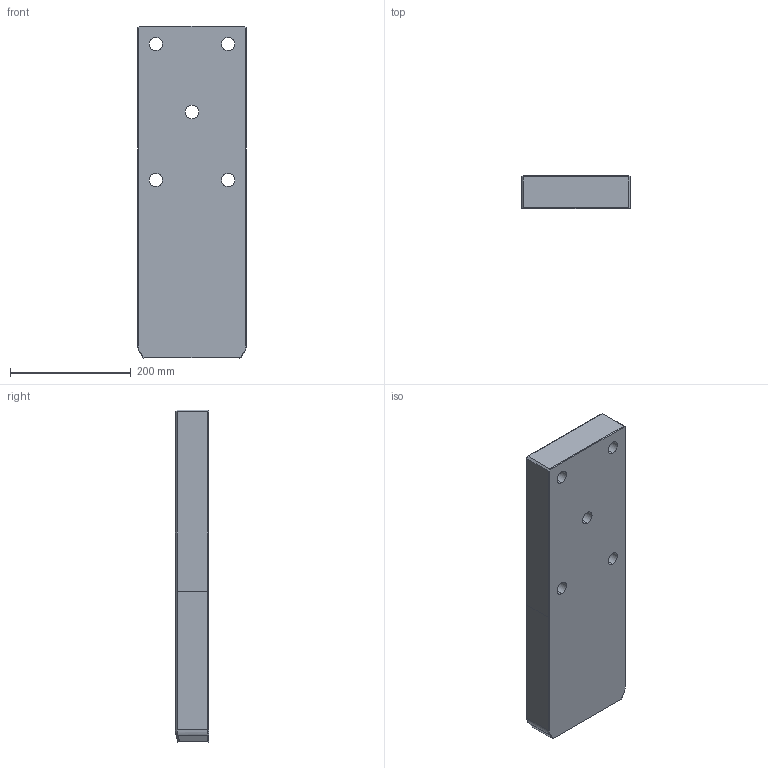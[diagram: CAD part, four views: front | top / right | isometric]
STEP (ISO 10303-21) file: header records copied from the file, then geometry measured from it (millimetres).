
FILE_DESCRIPTION((''),'2;1');
FILE_NAME('','2010-09-08T13:02:11+09:00',('misumi'),(''),'M/STEP i/f 1R2-14','CADmeister v5.1','');
FILE_SCHEMA(('AUTOMOTIVE_DESIGN'));
Length unit declared in the file: millimetre
Products named in the file (1): OGP180-550
Bounding box: 180 x 55 x 550 mm (x, y, z)
Volume: 5317643.7 mm3; surface area: 289782.8 mm2
Topology: 1 solids, 1 shells, 55 faces, 135 edges, 83 vertices
Faces by surface type: plane 32, cylinder 15, bspline 6, cone 2
Entity records: 1986 total; most frequent: CARTESIAN_POINT 611, ORIENTED_EDGE 260, DIRECTION 250, EDGE_CURVE 130, LINE 84, VECTOR 84, AXIS2_PLACEMENT_3D 83, VERTEX_POINT 78
